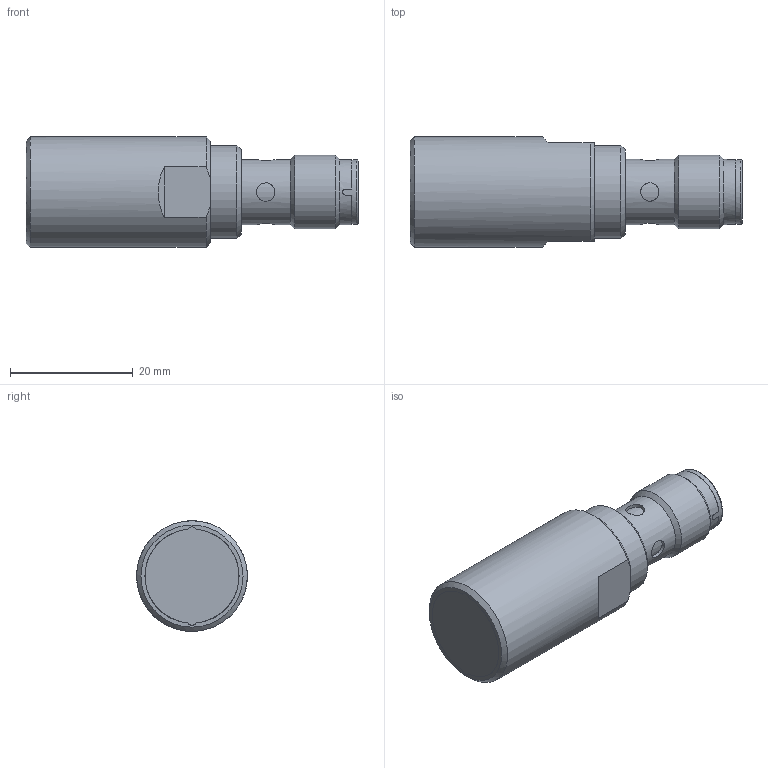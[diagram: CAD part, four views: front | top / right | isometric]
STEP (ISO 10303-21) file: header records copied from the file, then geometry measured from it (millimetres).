
FILE_DESCRIPTION(/* description */ (''),/* implementation_level */ '2;1');
FILE_NAME(/* name */ 'Z:\PG_031_033_365_369\031\progetti\_assemblies 3D\Contorno semplificato\ICB18 Thread 30 50\icb18_flush_connector_30mm_asm.stp',/* time_stamp */ '2015-05-07T15:04:05+02:00',/* author */ ('ddecol'),/* organization */ (''),/* preprocessor_version */ 'ST-DEVELOPER v15.6',/* originating_system */ 'Autodesk Inventor 2015',/* authorisation */ '');
FILE_SCHEMA (('AUTOMOTIVE_DESIGN { 1 0 10303 214 3 1 1 }'));
Length unit declared in the file: millimetre
Products named in the file (1): icb18_flush_connector_30mm_asm
Bounding box: 54 x 18 x 17.97 mm (x, y, z)
Surface area: 3774.8 mm2 (no closed solid volume)
Topology: 0 solids, 8 shells, 46 faces, 218 edges, 176 vertices
Faces by surface type: cylinder 19, plane 14, cone 6, sphere 4, torus 2, bspline 1
Full cylindrical faces by diameter (mm): 1 x4, 3 x4, 9.5 x1, 10.5 x1, 10.6 x2, 12 x1, 15.1 x1, 18 x1
Entity records: 2848 total; most frequent: CARTESIAN_POINT 1333, DIRECTION 292, ORIENTED_EDGE 226, EDGE_CURVE 169, VERTEX_POINT 153, AXIS2_PLACEMENT_3D 125, EDGE_LOOP 79, CIRCLE 69
